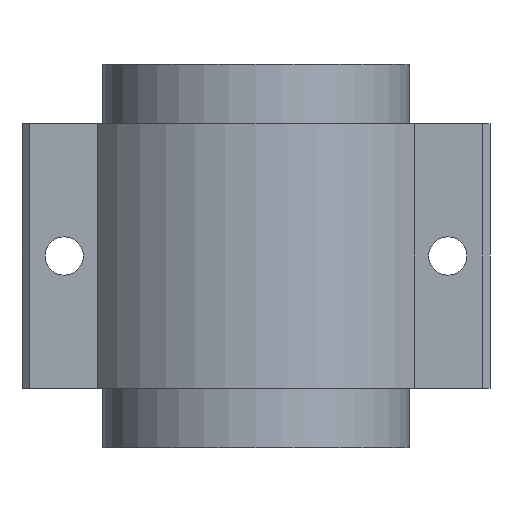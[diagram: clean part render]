
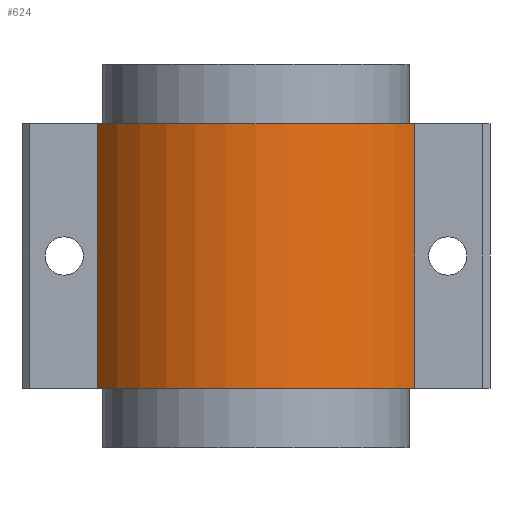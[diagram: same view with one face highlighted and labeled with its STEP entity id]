
A CAD part, front view. The second image highlights one B-rep face of the part: STEP entity #624.
In plain terms, the highlighted cylindrical face has radius 50 mm (diameter 100 mm), a partial arc.
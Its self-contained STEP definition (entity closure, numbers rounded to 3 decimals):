
#425=CARTESIAN_POINT('',(40.716,-23.802,15.55));
#426=VERTEX_POINT('',#425);
#433=CARTESIAN_POINT('',(-42.133,-23.802,15.55));
#434=VERTEX_POINT('',#433);
#435=CARTESIAN_POINT('',(-0.709,4.198,15.55));
#436=DIRECTION('',(0.0,0.0,1.));
#437=DIRECTION('',(0.828,0.56,0.0));
#438=AXIS2_PLACEMENT_3D('',#435,#436,#437);
#439=CIRCLE('',#438,50.0);
#440=EDGE_CURVE('',#434,#426,#439,.T.);
#577=CARTESIAN_POINT('',(40.716,-23.802,84.45));
#578=VERTEX_POINT('',#577);
#585=CARTESIAN_POINT('',(40.716,-23.802,84.45));
#586=DIRECTION('',(0.0,0.0,-1.0));
#587=VECTOR('',#586,68.9);
#588=LINE('',#585,#587);
#589=EDGE_CURVE('',#578,#426,#588,.T.);
#600=CARTESIAN_POINT('',(-0.709,4.198,50.0));
#601=DIRECTION('',(0.0,0.0,1.0));
#602=DIRECTION('',(0.828,0.56,0.0));
#603=AXIS2_PLACEMENT_3D('',#600,#601,#602);
#604=CYLINDRICAL_SURFACE('',#603,50.);
#605=CARTESIAN_POINT('',(-42.133,-23.802,84.45));
#606=VERTEX_POINT('',#605);
#607=CARTESIAN_POINT('',(-0.709,4.198,84.45));
#608=DIRECTION('',(0.0,0.0,-1.));
#609=DIRECTION('',(0.828,0.56,0.0));
#610=AXIS2_PLACEMENT_3D('',#607,#608,#609);
#611=CIRCLE('',#610,50.0);
#612=EDGE_CURVE('',#578,#606,#611,.T.);
#613=ORIENTED_EDGE('',*,*,#612,.T.);
#614=CARTESIAN_POINT('',(-42.133,-23.802,84.45));
#615=DIRECTION('',(0.0,0.0,-1.0));
#616=VECTOR('',#615,68.9);
#617=LINE('',#614,#616);
#618=EDGE_CURVE('',#606,#434,#617,.T.);
#619=ORIENTED_EDGE('',*,*,#618,.T.);
#620=ORIENTED_EDGE('',*,*,#440,.T.);
#621=ORIENTED_EDGE('',*,*,#589,.F.);
#622=EDGE_LOOP('',(#613,#619,#620,#621));
#623=FACE_OUTER_BOUND('',#622,.T.);
#624=ADVANCED_FACE('',(#623),#604,.T.);
